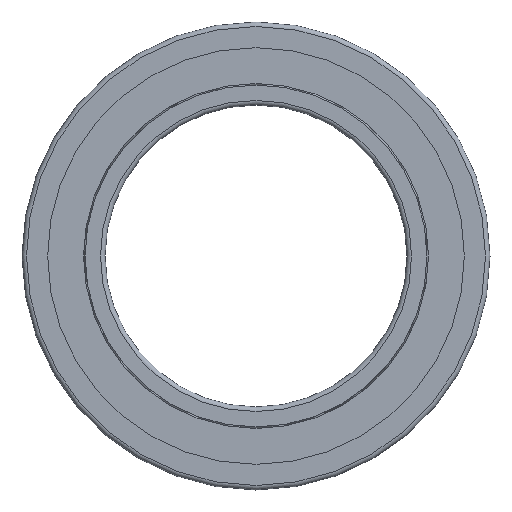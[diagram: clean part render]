
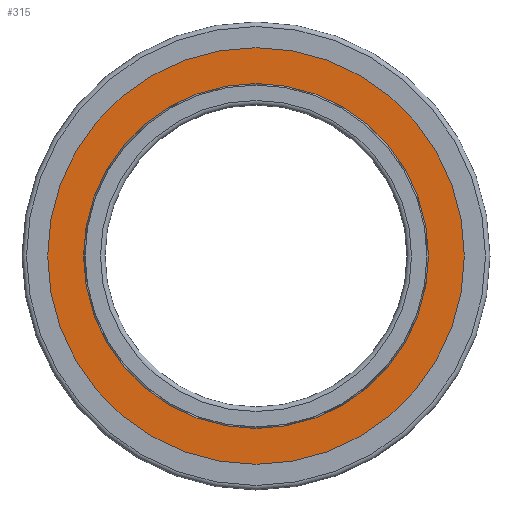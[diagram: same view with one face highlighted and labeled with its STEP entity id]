
A CAD part, left-side view. The second image highlights one B-rep face of the part: STEP entity #315.
In plain terms, the highlighted planar face has unit normal (-1, 0, 0).
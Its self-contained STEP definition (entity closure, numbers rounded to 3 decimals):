
#258=PLANE('',#1153);
#315=ADVANCED_FACE('',(#412,#413),#258,.F.);
#412=FACE_BOUND('',#601,.T.);
#413=FACE_BOUND('',#602,.T.);
#601=EDGE_LOOP('',(#765));
#602=EDGE_LOOP('',(#766));
#765=ORIENTED_EDGE('',*,*,#1028,.F.);
#766=ORIENTED_EDGE('',*,*,#1026,.T.);
#919=VERTEX_POINT('',#1503);
#921=VERTEX_POINT('',#1508);
#1026=EDGE_CURVE('',#919,#919,#1108,.T.);
#1028=EDGE_CURVE('',#921,#921,#1110,.T.);
#1108=CIRCLE('',#1149,27.6);
#1110=CIRCLE('',#1152,22.85);
#1149=AXIS2_PLACEMENT_3D('',#1502,#1281,#1282);
#1152=AXIS2_PLACEMENT_3D('',#1507,#1287,#1288);
#1153=AXIS2_PLACEMENT_3D('',#1509,#1289,#1290);
#1281=DIRECTION('',(-1.,0.,0.));
#1282=DIRECTION('',(0.,0.,1.));
#1287=DIRECTION('',(-1.,0.,0.));
#1288=DIRECTION('',(0.,0.,1.));
#1289=DIRECTION('',(1.,0.,0.));
#1290=DIRECTION('',(0.,0.,-1.));
#1502=CARTESIAN_POINT('',(0.1,0.,0.));
#1503=CARTESIAN_POINT('',(0.1,0.,27.6));
#1507=CARTESIAN_POINT('',(0.1,0.,0.));
#1508=CARTESIAN_POINT('',(0.1,0.,22.85));
#1509=CARTESIAN_POINT('',(0.1,0.,27.6));
